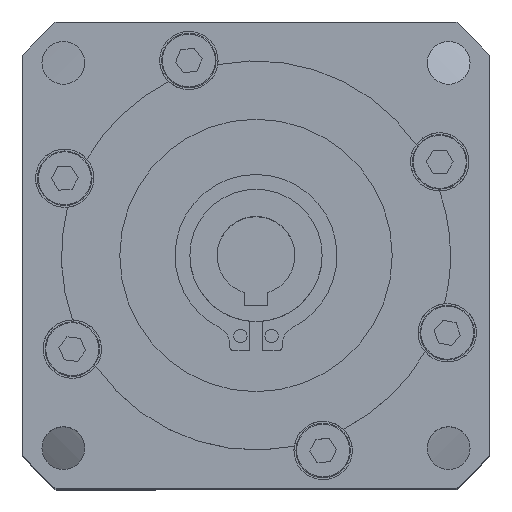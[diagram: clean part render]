
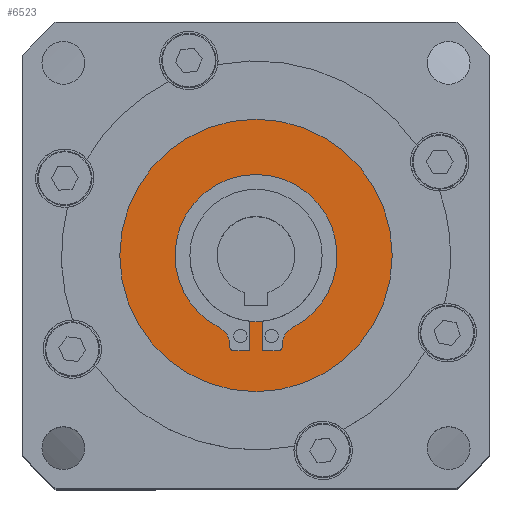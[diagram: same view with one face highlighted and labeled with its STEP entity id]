
A CAD part, top view. The second image highlights one B-rep face of the part: STEP entity #6523.
In plain terms, the highlighted planar face has unit normal (0, 0, 1).
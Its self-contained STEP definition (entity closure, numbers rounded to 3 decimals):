
#50 = CARTESIAN_POINT ( 'NONE',  ( 5.85, -11.497, -1. ) ) ;
#1173 = CARTESIAN_POINT ( 'NONE',  ( 0., 0., -1. ) ) ;
#1742 = DIRECTION ( 'NONE',  ( 0., 0., 1. ) ) ;
#1844 = DIRECTION ( 'NONE',  ( -1., 0., 0. ) ) ;
#2007 = DIRECTION ( 'NONE',  ( 1., 0., 0. ) ) ;
#2070 = AXIS2_PLACEMENT_3D ( 'NONE', #50, #23463, #3435 ) ;
#2821 = CARTESIAN_POINT ( 'NONE',  ( -0.85, 0., -1. ) ) ;
#2929 = ORIENTED_EDGE ( 'NONE', *, *, #14102, .F. ) ;
#3157 = LINE ( 'NONE', #35475, #38934 ) ;
#3163 = CARTESIAN_POINT ( 'NONE',  ( -10.4, 0., -1. ) ) ;
#3435 = DIRECTION ( 'NONE',  ( -1., 0., 0. ) ) ;
#3652 = EDGE_CURVE ( 'NONE', #13485, #28481, #24637, .T. ) ;
#4148 = EDGE_CURVE ( 'NONE', #8661, #35961, #3157, .T. ) ;
#4349 = EDGE_CURVE ( 'NONE', #23929, #13485, #13663, .T. ) ;
#4537 = DIRECTION ( 'NONE',  ( 1., 0., 0. ) ) ;
#4568 = CARTESIAN_POINT ( 'NONE',  ( 0., 0., -1. ) ) ;
#4682 = DIRECTION ( 'NONE',  ( -1., 0., 0. ) ) ;
#4839 = DIRECTION ( 'NONE',  ( 0., 0., 1. ) ) ;
#4996 = CARTESIAN_POINT ( 'NONE',  ( 2.85, -11.757, -1. ) ) ;
#5490 = CARTESIAN_POINT ( 'NONE',  ( -3.35, 0., -1. ) ) ;
#5763 = VECTOR ( 'NONE', #30100, 1000. ) ;
#5826 = VECTOR ( 'NONE', #36485, 1000. ) ;
#6523 = ADVANCED_FACE ( 'NONE', ( #38862, #39915 ), #27907, .F. ) ;
#7328 = ORIENTED_EDGE ( 'NONE', *, *, #31637, .F. ) ;
#7733 = AXIS2_PLACEMENT_3D ( 'NONE', #37539, #17332, #40906 ) ;
#8661 = VERTEX_POINT ( 'NONE', #28996 ) ;
#8872 = DIRECTION ( 'NONE',  ( 0., -1., 0. ) ) ;
#9002 = CARTESIAN_POINT ( 'NONE',  ( 3.35, 0., -1. ) ) ;
#9028 = CARTESIAN_POINT ( 'NONE',  ( -2.85, -11.757, -1. ) ) ;
#9589 = ORIENTED_EDGE ( 'NONE', *, *, #17267, .F. ) ;
#9672 = EDGE_CURVE ( 'NONE', #30777, #23929, #25962, .T. ) ;
#9795 = CIRCLE ( 'NONE', #42299, 10.4 ) ;
#9822 = DIRECTION ( 'NONE',  ( 0., 0., 1. ) ) ;
#10252 = CARTESIAN_POINT ( 'NONE',  ( -5.85, -11.497, -1. ) ) ;
#10879 = CIRCLE ( 'NONE', #7733, 10.4 ) ;
#11230 = EDGE_LOOP ( 'NONE', ( #21748, #30167, #38067, #18393, #7328, #9589, #20188, #22831, #37226, #34773, #23046, #16991, #2929, #30300 ) ) ;
#11347 = DIRECTION ( 'NONE',  ( 0., 0., -1. ) ) ;
#12211 = VERTEX_POINT ( 'NONE', #19399 ) ;
#12289 = VERTEX_POINT ( 'NONE', #3163 ) ;
#12436 = DIRECTION ( 'NONE',  ( -1., 0., 0. ) ) ;
#12643 = VERTEX_POINT ( 'NONE', #29318 ) ;
#12997 = CARTESIAN_POINT ( 'NONE',  ( -0.85, -12.257, -1. ) ) ;
#13210 = DIRECTION ( 'NONE',  ( 0., -1., 0. ) ) ;
#13485 = VERTEX_POINT ( 'NONE', #24720 ) ;
#13644 = DIRECTION ( 'NONE',  ( -1., 0., 0. ) ) ;
#13663 = LINE ( 'NONE', #30146, #5763 ) ;
#13762 = EDGE_LOOP ( 'NONE', ( #22668, #20654 ) ) ;
#13947 = AXIS2_PLACEMENT_3D ( 'NONE', #42269, #22016, #2007 ) ;
#14102 = EDGE_CURVE ( 'NONE', #35961, #20128, #14759, .T. ) ;
#14561 = CARTESIAN_POINT ( 'NONE',  ( -4.716, -9.269, -1. ) ) ;
#14759 = LINE ( 'NONE', #2821, #5826 ) ;
#15412 = CARTESIAN_POINT ( 'NONE',  ( -3.35, -11.497, -1. ) ) ;
#15488 = CIRCLE ( 'NONE', #29772, 8.5 ) ;
#15524 = CARTESIAN_POINT ( 'NONE',  ( 0.85, -8.457, -1. ) ) ;
#15906 = DIRECTION ( 'NONE',  ( 0., 1., 0. ) ) ;
#16186 = LINE ( 'NONE', #5490, #33080 ) ;
#16413 = CARTESIAN_POINT ( 'NONE',  ( 0.85, 0., -1. ) ) ;
#16991 = ORIENTED_EDGE ( 'NONE', *, *, #33817, .F. ) ;
#17267 = EDGE_CURVE ( 'NONE', #26732, #12643, #37721, .T. ) ;
#17332 = DIRECTION ( 'NONE',  ( 0., 0., 1. ) ) ;
#17405 = VECTOR ( 'NONE', #15906, 1000. ) ;
#18393 = ORIENTED_EDGE ( 'NONE', *, *, #41959, .F. ) ;
#18716 = AXIS2_PLACEMENT_3D ( 'NONE', #1173, #24585, #4537 ) ;
#19399 = CARTESIAN_POINT ( 'NONE',  ( 17.5, 0., -1. ) ) ;
#19837 = VERTEX_POINT ( 'NONE', #43402 ) ;
#20128 = VERTEX_POINT ( 'NONE', #38553 ) ;
#20188 = ORIENTED_EDGE ( 'NONE', *, *, #43481, .F. ) ;
#20641 = CARTESIAN_POINT ( 'NONE',  ( 3.35, -11.757, -1. ) ) ;
#20654 = ORIENTED_EDGE ( 'NONE', *, *, #23205, .T. ) ;
#21584 = CIRCLE ( 'NONE', #13947, 17.5 ) ;
#21748 = ORIENTED_EDGE ( 'NONE', *, *, #25552, .F. ) ;
#21766 = CARTESIAN_POINT ( 'NONE',  ( 0., 0., -1. ) ) ;
#21866 = DIRECTION ( 'NONE',  ( 0., 0., 1. ) ) ;
#22016 = DIRECTION ( 'NONE',  ( 0., 0., 1. ) ) ;
#22668 = ORIENTED_EDGE ( 'NONE', *, *, #35507, .T. ) ;
#22831 = ORIENTED_EDGE ( 'NONE', *, *, #28206, .F. ) ;
#23046 = ORIENTED_EDGE ( 'NONE', *, *, #9672, .F. ) ;
#23205 = EDGE_CURVE ( 'NONE', #19837, #12211, #32011, .T. ) ;
#23463 = DIRECTION ( 'NONE',  ( 0., 0., -1. ) ) ;
#23929 = VERTEX_POINT ( 'NONE', #37562 ) ;
#24429 = VERTEX_POINT ( 'NONE', #38854 ) ;
#24585 = DIRECTION ( 'NONE',  ( 0., 0., 1. ) ) ;
#24637 = CIRCLE ( 'NONE', #25300, 0.5 ) ;
#24720 = CARTESIAN_POINT ( 'NONE',  ( 2.85, -12.257, -1. ) ) ;
#25162 = DIRECTION ( 'NONE',  ( -1., 0., 0. ) ) ;
#25300 = AXIS2_PLACEMENT_3D ( 'NONE', #4996, #4839, #4682 ) ;
#25552 = EDGE_CURVE ( 'NONE', #39055, #8661, #43395, .T. ) ;
#25962 = LINE ( 'NONE', #16413, #42851 ) ;
#26356 = LINE ( 'NONE', #9002, #17405 ) ;
#26386 = AXIS2_PLACEMENT_3D ( 'NONE', #9028, #32587, #12436 ) ;
#26732 = VERTEX_POINT ( 'NONE', #28983 ) ;
#26920 = CIRCLE ( 'NONE', #32854, 2.5 ) ;
#27403 = AXIS2_PLACEMENT_3D ( 'NONE', #21766, #1742, #25162 ) ;
#27907 = PLANE ( 'NONE',  #35901 ) ;
#28206 = EDGE_CURVE ( 'NONE', #28481, #24429, #26356, .T. ) ;
#28481 = VERTEX_POINT ( 'NONE', #20641 ) ;
#28533 = CARTESIAN_POINT ( 'NONE',  ( -3.35, -11.757, -1. ) ) ;
#28684 = VERTEX_POINT ( 'NONE', #15412 ) ;
#28983 = CARTESIAN_POINT ( 'NONE',  ( 4.716, -9.269, -1. ) ) ;
#28996 = CARTESIAN_POINT ( 'NONE',  ( -2.85, -12.257, -1. ) ) ;
#29318 = CARTESIAN_POINT ( 'NONE',  ( 10.4, 0., -1. ) ) ;
#29690 = EDGE_CURVE ( 'NONE', #28684, #39055, #16186, .T. ) ;
#29772 = AXIS2_PLACEMENT_3D ( 'NONE', #29956, #9822, #33365 ) ;
#29956 = CARTESIAN_POINT ( 'NONE',  ( 0., 0., -1. ) ) ;
#30100 = DIRECTION ( 'NONE',  ( 1., 0., 0. ) ) ;
#30146 = CARTESIAN_POINT ( 'NONE',  ( 0., -12.257, -1. ) ) ;
#30167 = ORIENTED_EDGE ( 'NONE', *, *, #29690, .F. ) ;
#30207 = VERTEX_POINT ( 'NONE', #14561 ) ;
#30300 = ORIENTED_EDGE ( 'NONE', *, *, #4148, .F. ) ;
#30777 = VERTEX_POINT ( 'NONE', #15524 ) ;
#31277 = CIRCLE ( 'NONE', #2070, 2.5 ) ;
#31637 = EDGE_CURVE ( 'NONE', #12643, #12289, #10879, .T. ) ;
#32011 = CIRCLE ( 'NONE', #18716, 17.5 ) ;
#32587 = DIRECTION ( 'NONE',  ( 0., 0., 1. ) ) ;
#32854 = AXIS2_PLACEMENT_3D ( 'NONE', #10252, #33790, #13644 ) ;
#33080 = VECTOR ( 'NONE', #8872, 1000. ) ;
#33365 = DIRECTION ( 'NONE',  ( -1., 0., 0. ) ) ;
#33790 = DIRECTION ( 'NONE',  ( 0., 0., -1. ) ) ;
#33817 = EDGE_CURVE ( 'NONE', #20128, #30777, #15488, .T. ) ;
#34773 = ORIENTED_EDGE ( 'NONE', *, *, #4349, .F. ) ;
#34879 = DIRECTION ( 'NONE',  ( -1., 0., 0. ) ) ;
#35244 = EDGE_CURVE ( 'NONE', #30207, #28684, #26920, .T. ) ;
#35475 = CARTESIAN_POINT ( 'NONE',  ( 0., -12.257, -1. ) ) ;
#35488 = DIRECTION ( 'NONE',  ( 1., 0., 0. ) ) ;
#35507 = EDGE_CURVE ( 'NONE', #12211, #19837, #21584, .T. ) ;
#35901 = AXIS2_PLACEMENT_3D ( 'NONE', #4568, #11347, #34879 ) ;
#35961 = VERTEX_POINT ( 'NONE', #12997 ) ;
#36485 = DIRECTION ( 'NONE',  ( 0., 1., 0. ) ) ;
#37226 = ORIENTED_EDGE ( 'NONE', *, *, #3652, .F. ) ;
#37539 = CARTESIAN_POINT ( 'NONE',  ( 0., 0., -1. ) ) ;
#37562 = CARTESIAN_POINT ( 'NONE',  ( 0.85, -12.257, -1. ) ) ;
#37721 = CIRCLE ( 'NONE', #27403, 10.4 ) ;
#38067 = ORIENTED_EDGE ( 'NONE', *, *, #35244, .F. ) ;
#38553 = CARTESIAN_POINT ( 'NONE',  ( -0.85, -8.457, -1. ) ) ;
#38854 = CARTESIAN_POINT ( 'NONE',  ( 3.35, -11.497, -1. ) ) ;
#38862 = FACE_OUTER_BOUND ( 'NONE', #13762, .T. ) ;
#38934 = VECTOR ( 'NONE', #35488, 1000. ) ;
#39055 = VERTEX_POINT ( 'NONE', #28533 ) ;
#39915 = FACE_BOUND ( 'NONE', #11230, .T. ) ;
#40906 = DIRECTION ( 'NONE',  ( -1., 0., 0. ) ) ;
#41959 = EDGE_CURVE ( 'NONE', #12289, #30207, #9795, .T. ) ;
#42108 = CARTESIAN_POINT ( 'NONE',  ( 0., 0., -1. ) ) ;
#42269 = CARTESIAN_POINT ( 'NONE',  ( 0., 0., -1. ) ) ;
#42299 = AXIS2_PLACEMENT_3D ( 'NONE', #42108, #21866, #1844 ) ;
#42851 = VECTOR ( 'NONE', #13210, 1000. ) ;
#43395 = CIRCLE ( 'NONE', #26386, 0.5 ) ;
#43402 = CARTESIAN_POINT ( 'NONE',  ( -17.5, 0., -1. ) ) ;
#43481 = EDGE_CURVE ( 'NONE', #24429, #26732, #31277, .T. ) ;
